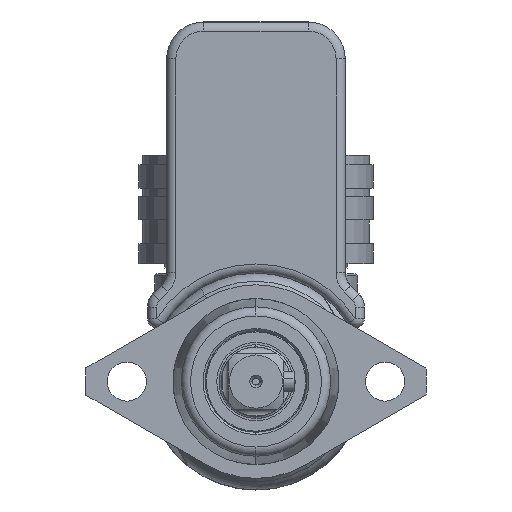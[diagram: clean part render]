
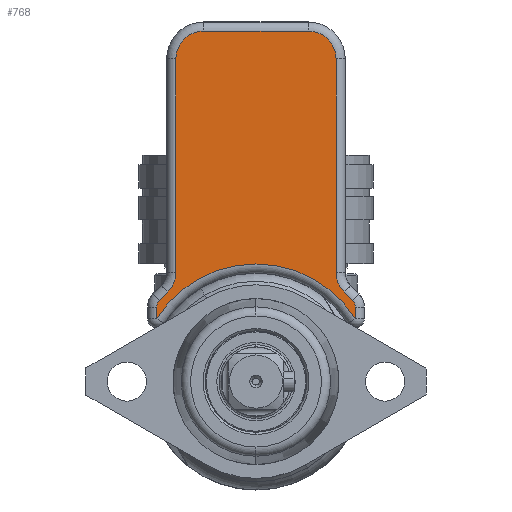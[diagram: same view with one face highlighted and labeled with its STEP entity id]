
A CAD part, left-side view. The second image highlights one B-rep face of the part: STEP entity #768.
In plain terms, the highlighted planar face has unit normal (-1, 0, 0).
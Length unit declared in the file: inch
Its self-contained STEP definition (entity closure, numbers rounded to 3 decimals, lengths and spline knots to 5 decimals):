
#768 = ADVANCED_FACE ( 'NONE', ( #21705 ), #17052, .T. ) ;
#2056 = LINE ( 'NONE', #24692, #2062 ) ;
#2060 = CIRCLE ( 'NONE', #29998, 0.187 ) ;
#2062 = VECTOR ( 'NONE', #24694, 39.37008 ) ;
#2068 = CIRCLE ( 'NONE', #30005, 0.797 ) ;
#2070 = LINE ( 'NONE', #24759, #2075 ) ;
#2073 = CIRCLE ( 'NONE', #30016, 0.063 ) ;
#2075 = VECTOR ( 'NONE', #24751, 39.37008 ) ;
#2076 = LINE ( 'NONE', #24783, #2082 ) ;
#2078 = LINE ( 'NONE', #24797, #2086 ) ;
#2082 = VECTOR ( 'NONE', #24776, 39.37008 ) ;
#2084 = CIRCLE ( 'NONE', #30021, 0.187 ) ;
#2086 = VECTOR ( 'NONE', #24769, 39.37008 ) ;
#2088 = LINE ( 'NONE', #24795, #2091 ) ;
#2090 = LINE ( 'NONE', #24809, #2093 ) ;
#2091 = VECTOR ( 'NONE', #24793, 39.37008 ) ;
#2092 = CIRCLE ( 'NONE', #30023, 0.188 ) ;
#2093 = VECTOR ( 'NONE', #24810, 39.37008 ) ;
#2140 = CIRCLE ( 'NONE', #30027, 0.063 ) ;
#2148 = LINE ( 'NONE', #24867, #2151 ) ;
#2151 = VECTOR ( 'NONE', #24863, 39.37008 ) ;
#2176 = CIRCLE ( 'NONE', #30061, 0.188 ) ;
#9862 = ORIENTED_EDGE ( 'NONE', *, *, #23844, .T. ) ;
#17047 = CARTESIAN_POINT ( 'NONE',  ( -2.25852, 0.61, 0.54306 ) ) ;
#17049 = DIRECTION ( 'NONE',  ( -1., 0., 0. ) ) ;
#17052 = PLANE ( 'NONE',  #34446 ) ;
#17085 = DIRECTION ( 'NONE',  ( 0., 1., 0. ) ) ;
#17579 = EDGE_LOOP ( 'NONE', ( #25313, #25108, #24951, #9862, #25494, #33774, #25084, #33907, #33915, #33713, #33891, #33717, #33802, #33855 ) ) ;
#21173 = CARTESIAN_POINT ( 'NONE',  ( -2.25852, -0.355, 2.41284 ) ) ;
#21192 = CARTESIAN_POINT ( 'NONE',  ( -2.25852, 0.543, 2.22484 ) ) ;
#21256 = CARTESIAN_POINT ( 'NONE',  ( -2.25852, -0.59777, 0.64438 ) ) ;
#21705 = FACE_OUTER_BOUND ( 'NONE', #17579, .T. ) ;
#23831 = EDGE_CURVE ( 'NONE', #45148, #36827, #2056, .T. ) ;
#23833 = EDGE_CURVE ( 'NONE', #36827, #45029, #2060, .T. ) ;
#23837 = EDGE_CURVE ( 'NONE', #44982, #45175, #2068, .T. ) ;
#23842 = EDGE_CURVE ( 'NONE', #45159, #44982, #2070, .T. ) ;
#23844 = EDGE_CURVE ( 'NONE', #44956, #45159, #2073, .T. ) ;
#23846 = EDGE_CURVE ( 'NONE', #44955, #44956, #2076, .T. ) ;
#23848 = EDGE_CURVE ( 'NONE', #36763, #44934, #2078, .T. ) ;
#23849 = EDGE_CURVE ( 'NONE', #44934, #44955, #2084, .T. ) ;
#23850 = EDGE_CURVE ( 'NONE', #45175, #45257, #2088, .T. ) ;
#23851 = EDGE_CURVE ( 'NONE', #36744, #45155, #2090, .T. ) ;
#23852 = EDGE_CURVE ( 'NONE', #45155, #36763, #2092, .T. ) ;
#23872 = EDGE_CURVE ( 'NONE', #45257, #45148, #2140, .T. ) ;
#23877 = EDGE_CURVE ( 'NONE', #45029, #44929, #2148, .T. ) ;
#24308 = CARTESIAN_POINT ( 'NONE',  ( -2.25852, -0.673, 0.54306 ) ) ;
#24692 = CARTESIAN_POINT ( 'NONE',  ( -2.25852, -0.04455, 1.19761 ) ) ;
#24694 = DIRECTION ( 'NONE',  ( 0., 0.707, 0.707 ) ) ;
#24706 = CARTESIAN_POINT ( 'NONE',  ( -2.25852, -0.73, 0.77661 ) ) ;
#24708 = DIRECTION ( 'NONE',  ( 1., 0., 0. ) ) ;
#24710 = DIRECTION ( 'NONE',  ( 0., 1., 0. ) ) ;
#24733 = CARTESIAN_POINT ( 'NONE',  ( -2.25852, 0., 0.03784 ) ) ;
#24735 = DIRECTION ( 'NONE',  ( 1., 0., 0. ) ) ;
#24737 = DIRECTION ( 'NONE',  ( 0., 1., 0. ) ) ;
#24751 = DIRECTION ( 'NONE',  ( 0., 0., -1. ) ) ;
#24759 = CARTESIAN_POINT ( 'NONE',  ( -2.25852, 0.673, 0.54306 ) ) ;
#24769 = DIRECTION ( 'NONE',  ( 0., 0., -1. ) ) ;
#24776 = DIRECTION ( 'NONE',  ( 0., 0.707, -0.707 ) ) ;
#24779 = CARTESIAN_POINT ( 'NONE',  ( -2.25852, 0.61, 0.54306 ) ) ;
#24780 = DIRECTION ( 'NONE',  ( -1., 0., 0. ) ) ;
#24781 = DIRECTION ( 'NONE',  ( 0., 1., 0. ) ) ;
#24783 = CARTESIAN_POINT ( 'NONE',  ( -2.25852, 0.65455, 0.58761 ) ) ;
#24793 = DIRECTION ( 'NONE',  ( 0., 0., 1. ) ) ;
#24795 = CARTESIAN_POINT ( 'NONE',  ( -2.25852, -0.673, 0.54306 ) ) ;
#24797 = CARTESIAN_POINT ( 'NONE',  ( -2.25852, 0.543, 0.54306 ) ) ;
#24806 = CARTESIAN_POINT ( 'NONE',  ( -2.25852, 0.73, 0.77661 ) ) ;
#24807 = DIRECTION ( 'NONE',  ( 1., 0., 0. ) ) ;
#24808 = DIRECTION ( 'NONE',  ( 0., 1., 0. ) ) ;
#24809 = CARTESIAN_POINT ( 'NONE',  ( -2.25852, 0.61, 2.41284 ) ) ;
#24810 = DIRECTION ( 'NONE',  ( 0., 1., 0. ) ) ;
#24812 = CARTESIAN_POINT ( 'NONE',  ( -2.25852, 0.355, 2.22484 ) ) ;
#24813 = DIRECTION ( 'NONE',  ( -1., 0., 0. ) ) ;
#24814 = DIRECTION ( 'NONE',  ( 0., 1., 0. ) ) ;
#24858 = CARTESIAN_POINT ( 'NONE',  ( -2.25852, -0.61, 0.54306 ) ) ;
#24859 = DIRECTION ( 'NONE',  ( -1., 0., 0. ) ) ;
#24860 = DIRECTION ( 'NONE',  ( 0., 1., 0. ) ) ;
#24863 = DIRECTION ( 'NONE',  ( 0., 0., 1. ) ) ;
#24867 = CARTESIAN_POINT ( 'NONE',  ( -2.25852, -0.543, 0.54306 ) ) ;
#24951 = ORIENTED_EDGE ( 'NONE', *, *, #23846, .T. ) ;
#25059 = EDGE_CURVE ( 'NONE', #44929, #36744, #2176, .T. ) ;
#25084 = ORIENTED_EDGE ( 'NONE', *, *, #23850, .T. ) ;
#25108 = ORIENTED_EDGE ( 'NONE', *, *, #23849, .T. ) ;
#25313 = ORIENTED_EDGE ( 'NONE', *, *, #23848, .T. ) ;
#25494 = ORIENTED_EDGE ( 'NONE', *, *, #23842, .T. ) ;
#26460 = CARTESIAN_POINT ( 'NONE',  ( -2.25852, -0.543, 2.22484 ) ) ;
#26464 = CARTESIAN_POINT ( 'NONE',  ( -2.25852, 0.543, 0.77661 ) ) ;
#26491 = CARTESIAN_POINT ( 'NONE',  ( -2.25852, 0.59777, 0.64438 ) ) ;
#26492 = CARTESIAN_POINT ( 'NONE',  ( -2.25852, 0.65455, 0.58761 ) ) ;
#26519 = CARTESIAN_POINT ( 'NONE',  ( -2.25852, 0.673, 0.46478 ) ) ;
#26567 = CARTESIAN_POINT ( 'NONE',  ( -2.25852, -0.543, 0.77661 ) ) ;
#26732 = CARTESIAN_POINT ( 'NONE',  ( -2.25852, -0.65455, 0.58761 ) ) ;
#26739 = CARTESIAN_POINT ( 'NONE',  ( -2.25852, 0.355, 2.41284 ) ) ;
#26743 = CARTESIAN_POINT ( 'NONE',  ( -2.25852, 0.673, 0.54306 ) ) ;
#26760 = CARTESIAN_POINT ( 'NONE',  ( -2.25852, -0.673, 0.46478 ) ) ;
#29998 = AXIS2_PLACEMENT_3D ( 'NONE', #24706, #24708, #24710 ) ;
#30005 = AXIS2_PLACEMENT_3D ( 'NONE', #24733, #24735, #24737 ) ;
#30016 = AXIS2_PLACEMENT_3D ( 'NONE', #24779, #24780, #24781 ) ;
#30021 = AXIS2_PLACEMENT_3D ( 'NONE', #24806, #24807, #24808 ) ;
#30023 = AXIS2_PLACEMENT_3D ( 'NONE', #24812, #24813, #24814 ) ;
#30027 = AXIS2_PLACEMENT_3D ( 'NONE', #24858, #24859, #24860 ) ;
#30061 = AXIS2_PLACEMENT_3D ( 'NONE', #37830, #37831, #37832 ) ;
#33713 = ORIENTED_EDGE ( 'NONE', *, *, #23833, .T. ) ;
#33717 = ORIENTED_EDGE ( 'NONE', *, *, #25059, .T. ) ;
#33774 = ORIENTED_EDGE ( 'NONE', *, *, #23837, .T. ) ;
#33802 = ORIENTED_EDGE ( 'NONE', *, *, #23851, .T. ) ;
#33855 = ORIENTED_EDGE ( 'NONE', *, *, #23852, .T. ) ;
#33891 = ORIENTED_EDGE ( 'NONE', *, *, #23877, .T. ) ;
#33907 = ORIENTED_EDGE ( 'NONE', *, *, #23872, .T. ) ;
#33915 = ORIENTED_EDGE ( 'NONE', *, *, #23831, .T. ) ;
#34446 = AXIS2_PLACEMENT_3D ( 'NONE', #17047, #17049, #17085 ) ;
#36744 = VERTEX_POINT ( 'NONE', #21173 ) ;
#36763 = VERTEX_POINT ( 'NONE', #21192 ) ;
#36827 = VERTEX_POINT ( 'NONE', #21256 ) ;
#37830 = CARTESIAN_POINT ( 'NONE',  ( -2.25852, -0.355, 2.22484 ) ) ;
#37831 = DIRECTION ( 'NONE',  ( -1., 0., 0. ) ) ;
#37832 = DIRECTION ( 'NONE',  ( 0., 1., 0. ) ) ;
#44929 = VERTEX_POINT ( 'NONE', #26460 ) ;
#44934 = VERTEX_POINT ( 'NONE', #26464 ) ;
#44955 = VERTEX_POINT ( 'NONE', #26491 ) ;
#44956 = VERTEX_POINT ( 'NONE', #26492 ) ;
#44982 = VERTEX_POINT ( 'NONE', #26519 ) ;
#45029 = VERTEX_POINT ( 'NONE', #26567 ) ;
#45148 = VERTEX_POINT ( 'NONE', #26732 ) ;
#45155 = VERTEX_POINT ( 'NONE', #26739 ) ;
#45159 = VERTEX_POINT ( 'NONE', #26743 ) ;
#45175 = VERTEX_POINT ( 'NONE', #26760 ) ;
#45257 = VERTEX_POINT ( 'NONE', #24308 ) ;
